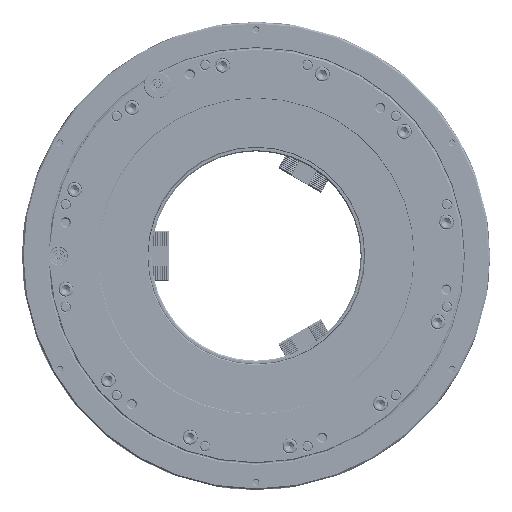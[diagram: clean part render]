
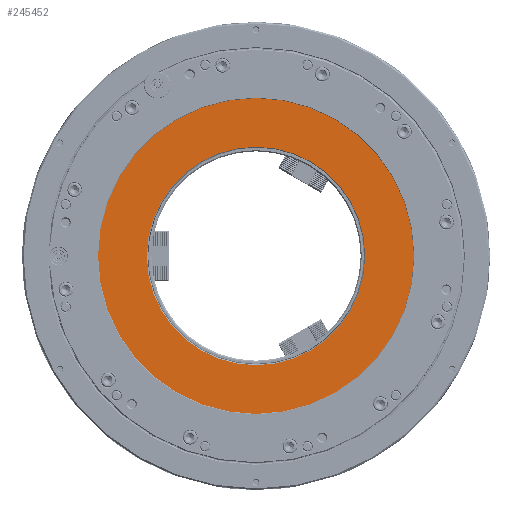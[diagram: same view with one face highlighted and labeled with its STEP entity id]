
A CAD part, left-side view. The second image highlights one B-rep face of the part: STEP entity #245452.
In plain terms, the highlighted planar face has unit normal (-1, 0, 0).
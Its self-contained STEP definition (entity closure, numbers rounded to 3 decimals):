
#3516 = DIRECTION ( 'NONE',  ( 0., 0., -1. ) ) ;
#9286 = EDGE_CURVE ( 'NONE', #109554, #12844, #196604, .T. ) ;
#12844 = VERTEX_POINT ( 'NONE', #31919 ) ;
#31919 = CARTESIAN_POINT ( 'NONE',  ( -17., 0., -143.5 ) ) ;
#38882 = DIRECTION ( 'NONE',  ( 0., 0., -1. ) ) ;
#48927 = DIRECTION ( 'NONE',  ( 0., 0., 1. ) ) ;
#50269 = CARTESIAN_POINT ( 'NONE',  ( -17., 207.5, 0. ) ) ;
#57115 = DIRECTION ( 'NONE',  ( 1., 0., 0. ) ) ;
#69098 = CARTESIAN_POINT ( 'NONE',  ( -17., 0., 207.5 ) ) ;
#69806 = ORIENTED_EDGE ( 'NONE', *, *, #131390, .T. ) ;
#77126 = DIRECTION ( 'NONE',  ( 1., 0., 0. ) ) ;
#98072 = DIRECTION ( 'NONE',  ( 1., 0., 0. ) ) ;
#100020 = CARTESIAN_POINT ( 'NONE',  ( -17., 0., 143.5 ) ) ;
#103628 = ORIENTED_EDGE ( 'NONE', *, *, #241998, .F. ) ;
#108106 = DIRECTION ( 'NONE',  ( 1., 0., 0. ) ) ;
#109554 = VERTEX_POINT ( 'NONE', #100020 ) ;
#118755 = AXIS2_PLACEMENT_3D ( 'NONE', #161879, #57115, #265128 ) ;
#131390 = EDGE_CURVE ( 'NONE', #12844, #109554, #237487, .T. ) ;
#140870 = CARTESIAN_POINT ( 'NONE',  ( -17., 0., 0. ) ) ;
#142983 = FACE_OUTER_BOUND ( 'NONE', #195958, .T. ) ;
#155214 = AXIS2_PLACEMENT_3D ( 'NONE', #50269, #258259, #48927 ) ;
#161273 = CARTESIAN_POINT ( 'NONE',  ( -17., 0., 0. ) ) ;
#161879 = CARTESIAN_POINT ( 'NONE',  ( -17., 0., 0. ) ) ;
#165839 = CARTESIAN_POINT ( 'NONE',  ( -17., 0., -207.5 ) ) ;
#173761 = ORIENTED_EDGE ( 'NONE', *, *, #9286, .T. ) ;
#189481 = CIRCLE ( 'NONE', #268429, 207.5 ) ;
#190101 = VERTEX_POINT ( 'NONE', #165839 ) ;
#193830 = ORIENTED_EDGE ( 'NONE', *, *, #266582, .F. ) ;
#195958 = EDGE_LOOP ( 'NONE', ( #193830, #103628 ) ) ;
#196604 = CIRCLE ( 'NONE', #258117, 143.5 ) ;
#198727 = VERTEX_POINT ( 'NONE', #69098 ) ;
#222847 = PLANE ( 'NONE',  #155214 ) ;
#237487 = CIRCLE ( 'NONE', #118755, 143.5 ) ;
#240215 = CARTESIAN_POINT ( 'NONE',  ( -17., 0., 0. ) ) ;
#241998 = EDGE_CURVE ( 'NONE', #198727, #190101, #189481, .T. ) ;
#244290 = CIRCLE ( 'NONE', #248646, 207.5 ) ;
#245200 = DIRECTION ( 'NONE',  ( 0., 0., -1. ) ) ;
#245452 = ADVANCED_FACE ( 'NONE', ( #247544, #142983 ), #222847, .T. ) ;
#247544 = FACE_BOUND ( 'NONE', #251767, .T. ) ;
#248646 = AXIS2_PLACEMENT_3D ( 'NONE', #140870, #98072, #38882 ) ;
#251767 = EDGE_LOOP ( 'NONE', ( #173761, #69806 ) ) ;
#258117 = AXIS2_PLACEMENT_3D ( 'NONE', #161273, #77126, #245200 ) ;
#258259 = DIRECTION ( 'NONE',  ( -1., 0., 0. ) ) ;
#265128 = DIRECTION ( 'NONE',  ( 0., 0., -1. ) ) ;
#266582 = EDGE_CURVE ( 'NONE', #190101, #198727, #244290, .T. ) ;
#268429 = AXIS2_PLACEMENT_3D ( 'NONE', #240215, #108106, #3516 ) ;
